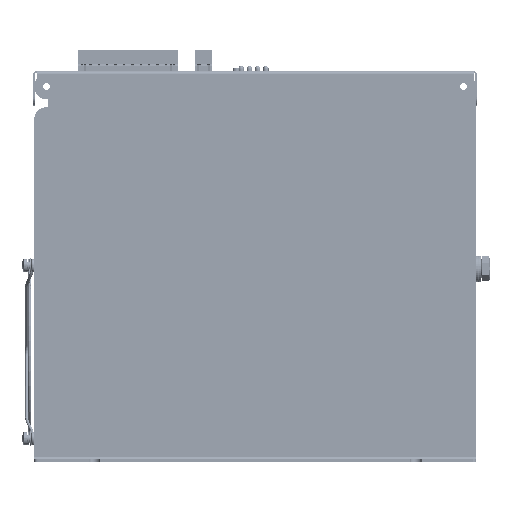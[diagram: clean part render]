
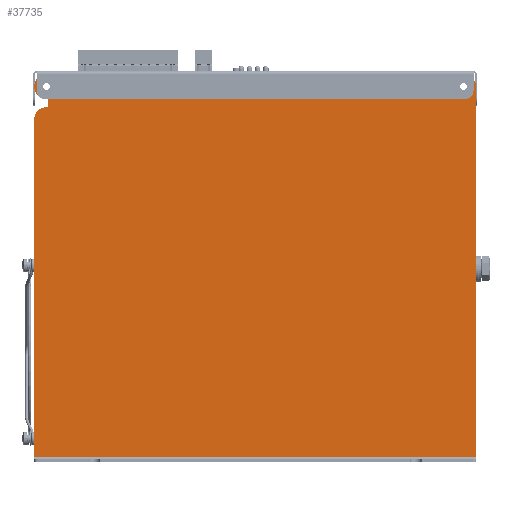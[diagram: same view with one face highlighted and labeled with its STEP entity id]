
A CAD part, left-side view. The second image highlights one B-rep face of the part: STEP entity #37735.
In plain terms, the highlighted planar face has unit normal (-1, 0, 0).
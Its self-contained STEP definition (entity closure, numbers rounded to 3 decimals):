
#37735=ADVANCED_FACE('',(#81557,#81559,#81561),#81563,.F.);
#81557=FACE_BOUND('',#81558,.T.);
#81558=EDGE_LOOP('',(#151413,#151414,#151415,#151416,#151417,#151418,#151419,#151420,
#151421,#151422));
#81559=FACE_BOUND('',#81560,.T.);
#81560=EDGE_LOOP('',(#151423));
#81561=FACE_BOUND('',#81562,.T.);
#81562=EDGE_LOOP('',(#151424));
#81563=PLANE('',#81564);
#81564=AXIS2_PLACEMENT_3D('',#81565,#81566,#81567);
#81565=CARTESIAN_POINT('',(-59.852,12.642,60.711));
#81566=DIRECTION('',(1.,0.,0.));
#81567=DIRECTION('',(0.,1.,0.));
#151413=ORIENTED_EDGE('',*,*,#173223,.T.);
#151414=ORIENTED_EDGE('',*,*,#172449,.F.);
#151415=ORIENTED_EDGE('',*,*,#173222,.F.);
#151416=ORIENTED_EDGE('',*,*,#173224,.F.);
#151417=ORIENTED_EDGE('',*,*,#173225,.F.);
#151418=ORIENTED_EDGE('',*,*,#173226,.T.);
#151419=ORIENTED_EDGE('',*,*,#173227,.T.);
#151420=ORIENTED_EDGE('',*,*,#173228,.T.);
#151421=ORIENTED_EDGE('',*,*,#173229,.F.);
#151422=ORIENTED_EDGE('',*,*,#173230,.F.);
#151423=ORIENTED_EDGE('',*,*,#173231,.T.);
#151424=ORIENTED_EDGE('',*,*,#173232,.T.);
#172449=EDGE_CURVE('',#197082,#197084,#197085,.T.);
#173222=EDGE_CURVE('',#198594,#197082,#198596,.F.);
#173223=EDGE_CURVE('',#198597,#197084,#198598,.T.);
#173224=EDGE_CURVE('',#198599,#198594,#198600,.T.);
#173225=EDGE_CURVE('',#198601,#198599,#198602,.F.);
#173226=EDGE_CURVE('',#198601,#198603,#198604,.T.);
#173227=EDGE_CURVE('',#198603,#198605,#198606,.T.);
#173228=EDGE_CURVE('',#198605,#198607,#198608,.T.);
#173229=EDGE_CURVE('',#198609,#198607,#198610,.F.);
#173230=EDGE_CURVE('',#198597,#198609,#198611,.T.);
#173231=EDGE_CURVE('',#198612,#198612,#198613,.T.);
#173232=EDGE_CURVE('',#198614,#198614,#198615,.T.);
#197082=VERTEX_POINT('',#274316);
#197084=VERTEX_POINT('',#274320);
#197085=LINE('',#274321,#274322);
#198594=VERTEX_POINT('',#277690);
#198596=CIRCLE('',#277694,7.5);
#198597=VERTEX_POINT('',#277698);
#198598=LINE('',#277699,#277700);
#198599=VERTEX_POINT('',#277702);
#198600=LINE('',#277703,#277704);
#198601=VERTEX_POINT('',#277706);
#198602=CIRCLE('',#277707,7.5);
#198603=VERTEX_POINT('',#277711);
#198604=LINE('',#277712,#277713);
#198605=VERTEX_POINT('',#277715);
#198606=LINE('',#277716,#277717);
#198607=VERTEX_POINT('',#277719);
#198608=LINE('',#277720,#277721);
#198609=VERTEX_POINT('',#277723);
#198610=CIRCLE('',#277724,7.5);
#198611=LINE('',#277728,#277729);
#198612=VERTEX_POINT('',#277731);
#198613=CIRCLE('',#277732,3.05);
#198614=VERTEX_POINT('',#277736);
#198615=CIRCLE('',#277737,3.05);
#274316=CARTESIAN_POINT('',(-59.852,-121.358,170.711));
#274320=CARTESIAN_POINT('',(-59.852,-121.358,-53.789));
#274321=CARTESIAN_POINT('',(-59.852,-121.358,170.711));
#274322=VECTOR('',#274323,1.);
#274323=DIRECTION('',(0.,0.,-1.));
#277690=CARTESIAN_POINT('',(-59.852,-113.858,178.211));
#277694=AXIS2_PLACEMENT_3D('',#277695,#277696,#277697);
#277695=CARTESIAN_POINT('',(-59.852,-113.858,170.711));
#277696=DIRECTION('',(-1.,0.,0.));
#277697=DIRECTION('',(0.,-1.,0.));
#277698=CARTESIAN_POINT('',(-59.852,146.642,-53.789));
#277699=CARTESIAN_POINT('',(-59.852,146.642,-53.789));
#277700=VECTOR('',#277701,1.);
#277701=DIRECTION('',(0.,-1.,0.));
#277702=CARTESIAN_POINT('',(-59.852,139.142,178.211));
#277703=CARTESIAN_POINT('',(-59.852,139.142,178.211));
#277704=VECTOR('',#277705,1.);
#277705=DIRECTION('',(0.,-1.,0.));
#277706=CARTESIAN_POINT('',(-59.852,139.142,163.211));
#277707=AXIS2_PLACEMENT_3D('',#277708,#277709,#277710);
#277708=CARTESIAN_POINT('',(-59.852,139.142,170.711));
#277709=DIRECTION('',(-1.,0.,0.));
#277710=DIRECTION('',(0.,0.,1.));
#277711=CARTESIAN_POINT('',(-59.852,138.142,163.211));
#277712=CARTESIAN_POINT('',(-59.852,139.142,163.211));
#277713=VECTOR('',#277714,1.);
#277714=DIRECTION('',(0.,-1.,0.));
#277715=CARTESIAN_POINT('',(-59.852,138.142,158.211));
#277716=CARTESIAN_POINT('',(-59.852,138.142,163.211));
#277717=VECTOR('',#277718,1.);
#277718=DIRECTION('',(0.,0.,-1.));
#277719=CARTESIAN_POINT('',(-59.852,139.142,158.211));
#277720=CARTESIAN_POINT('',(-59.852,138.142,158.211));
#277721=VECTOR('',#277722,1.);
#277722=DIRECTION('',(0.,1.,0.));
#277723=CARTESIAN_POINT('',(-59.852,146.642,150.711));
#277724=AXIS2_PLACEMENT_3D('',#277725,#277726,#277727);
#277725=CARTESIAN_POINT('',(-59.852,139.142,150.711));
#277726=DIRECTION('',(-1.,0.,0.));
#277727=DIRECTION('',(0.,0.,1.));
#277728=CARTESIAN_POINT('',(-59.852,146.642,-53.789));
#277729=VECTOR('',#277730,1.);
#277730=DIRECTION('',(0.,0.,1.));
#277731=CARTESIAN_POINT('',(-59.852,142.192,170.711));
#277732=AXIS2_PLACEMENT_3D('',#277733,#277734,#277735);
#277733=CARTESIAN_POINT('',(-59.852,139.142,170.711));
#277734=DIRECTION('',(1.,0.,0.));
#277735=DIRECTION('',(0.,1.,0.));
#277736=CARTESIAN_POINT('',(-59.852,-110.808,170.711));
#277737=AXIS2_PLACEMENT_3D('',#277738,#277739,#277740);
#277738=CARTESIAN_POINT('',(-59.852,-113.858,170.711));
#277739=DIRECTION('',(1.,0.,0.));
#277740=DIRECTION('',(0.,1.,0.));
